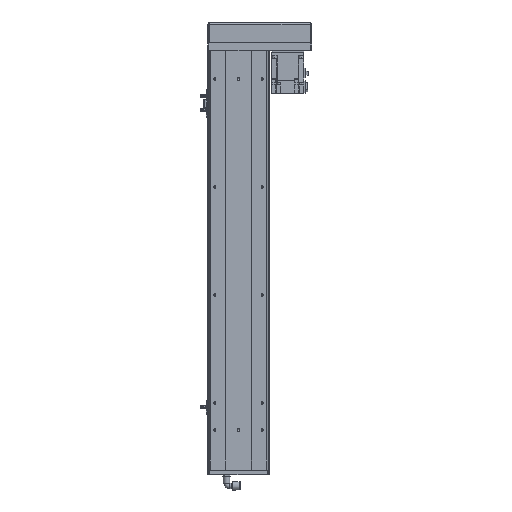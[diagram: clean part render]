
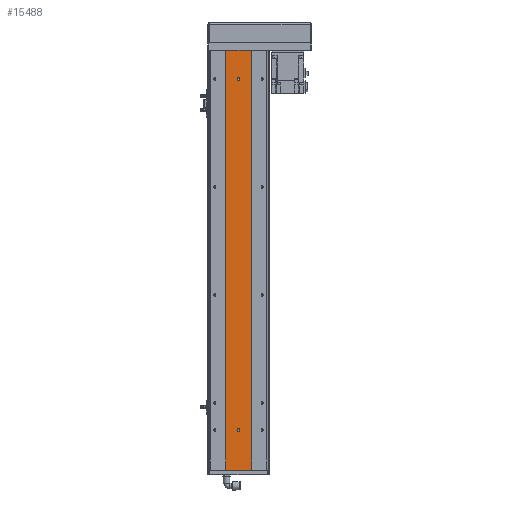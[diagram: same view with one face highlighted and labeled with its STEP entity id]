
A CAD part, top view. The second image highlights one B-rep face of the part: STEP entity #15488.
In plain terms, the highlighted planar face has unit normal (0, 0, 1).
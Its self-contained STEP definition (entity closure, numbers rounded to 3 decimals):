
#695 = LINE ( 'NONE', #18924, #30082 ) ;
#704 = CARTESIAN_POINT ( 'NONE',  ( 0., -54., 35.25 ) ) ;
#1459 = EDGE_CURVE ( 'NONE', #21817, #35104, #12765, .T. ) ;
#2255 = DIRECTION ( 'NONE',  ( 1., 0., 0. ) ) ;
#2807 = VECTOR ( 'NONE', #17575, 1000. ) ;
#3235 = CARTESIAN_POINT ( 'NONE',  ( -24., -777., 35.25 ) ) ;
#3475 = CARTESIAN_POINT ( 'NONE',  ( 2.5, -54., 35.25 ) ) ;
#3689 = LINE ( 'NONE', #3235, #2807 ) ;
#3955 = VERTEX_POINT ( 'NONE', #15570 ) ;
#4054 = ORIENTED_EDGE ( 'NONE', *, *, #4739, .F. ) ;
#4203 = ORIENTED_EDGE ( 'NONE', *, *, #1459, .F. ) ;
#4317 = CARTESIAN_POINT ( 'NONE',  ( 24., -777., 35.25 ) ) ;
#4739 = EDGE_CURVE ( 'NONE', #23258, #24466, #4922, .T. ) ;
#4922 = CIRCLE ( 'NONE', #17670, 2.5 ) ;
#5953 = DIRECTION ( 'NONE',  ( 0., 0., 1. ) ) ;
#6267 = CARTESIAN_POINT ( 'NONE',  ( 2.5, -52., 35.25 ) ) ;
#6442 = DIRECTION ( 'NONE',  ( 1., 0., 0. ) ) ;
#6865 = LINE ( 'NONE', #15052, #19840 ) ;
#7021 = ORIENTED_EDGE ( 'NONE', *, *, #20981, .F. ) ;
#7046 = EDGE_CURVE ( 'NONE', #24761, #13845, #35540, .T. ) ;
#7214 = PLANE ( 'NONE',  #11428 ) ;
#7541 = ORIENTED_EDGE ( 'NONE', *, *, #24513, .T. ) ;
#9403 = VERTEX_POINT ( 'NONE', #23060 ) ;
#11428 = AXIS2_PLACEMENT_3D ( 'NONE', #27106, #15819, #31964 ) ;
#12521 = AXIS2_PLACEMENT_3D ( 'NONE', #36601, #22217, #2255 ) ;
#12584 = CARTESIAN_POINT ( 'NONE',  ( 0., -52., 35.25 ) ) ;
#12642 = CIRCLE ( 'NONE', #34897, 2.5 ) ;
#12682 = VECTOR ( 'NONE', #24309, 1000. ) ;
#12765 = LINE ( 'NONE', #33405, #27451 ) ;
#13126 = CARTESIAN_POINT ( 'NONE',  ( -2.5, -703., 35.25 ) ) ;
#13845 = VERTEX_POINT ( 'NONE', #6267 ) ;
#15052 = CARTESIAN_POINT ( 'NONE',  ( -2.5, -54., 35.25 ) ) ;
#15078 = VECTOR ( 'NONE', #21374, 1000. ) ;
#15488 = ADVANCED_FACE ( 'NONE', ( #17398, #31624, #24089 ), #7214, .T. ) ;
#15570 = CARTESIAN_POINT ( 'NONE',  ( -24., -777., 35.25 ) ) ;
#15819 = DIRECTION ( 'NONE',  ( 0., 0., 1. ) ) ;
#17398 = FACE_BOUND ( 'NONE', #32083, .T. ) ;
#17575 = DIRECTION ( 'NONE',  ( 0., 1., 0. ) ) ;
#17670 = AXIS2_PLACEMENT_3D ( 'NONE', #25334, #36381, #22257 ) ;
#18192 = DIRECTION ( 'NONE',  ( 1., 0., 0. ) ) ;
#18590 = CARTESIAN_POINT ( 'NONE',  ( -24., -777., 35.25 ) ) ;
#18924 = CARTESIAN_POINT ( 'NONE',  ( 24., -777., 35.25 ) ) ;
#18953 = LINE ( 'NONE', #18590, #12682 ) ;
#19191 = CARTESIAN_POINT ( 'NONE',  ( -24., 0., 35.25 ) ) ;
#19840 = VECTOR ( 'NONE', #23282, 1000. ) ;
#20835 = CARTESIAN_POINT ( 'NONE',  ( 24., 0., 35.25 ) ) ;
#20981 = EDGE_CURVE ( 'NONE', #9403, #25050, #6865, .T. ) ;
#21162 = CIRCLE ( 'NONE', #35928, 2.5 ) ;
#21374 = DIRECTION ( 'NONE',  ( 0., 1., 0. ) ) ;
#21817 = VERTEX_POINT ( 'NONE', #19191 ) ;
#22217 = DIRECTION ( 'NONE',  ( 0., 0., 1. ) ) ;
#22257 = DIRECTION ( 'NONE',  ( 1., 0., 0. ) ) ;
#22659 = DIRECTION ( 'NONE',  ( 0., 1., 0. ) ) ;
#22727 = ORIENTED_EDGE ( 'NONE', *, *, #35814, .F. ) ;
#22922 = EDGE_LOOP ( 'NONE', ( #22727, #4054 ) ) ;
#23060 = CARTESIAN_POINT ( 'NONE',  ( -2.5, -52., 35.25 ) ) ;
#23195 = ORIENTED_EDGE ( 'NONE', *, *, #7046, .F. ) ;
#23258 = VERTEX_POINT ( 'NONE', #13126 ) ;
#23282 = DIRECTION ( 'NONE',  ( 0., -1., 0. ) ) ;
#24062 = EDGE_CURVE ( 'NONE', #25918, #35104, #695, .T. ) ;
#24089 = FACE_OUTER_BOUND ( 'NONE', #24904, .T. ) ;
#24309 = DIRECTION ( 'NONE',  ( 1., 0., 0. ) ) ;
#24466 = VERTEX_POINT ( 'NONE', #30254 ) ;
#24513 = EDGE_CURVE ( 'NONE', #3955, #25918, #18953, .T. ) ;
#24761 = VERTEX_POINT ( 'NONE', #3475 ) ;
#24887 = EDGE_CURVE ( 'NONE', #13845, #9403, #12642, .T. ) ;
#24904 = EDGE_LOOP ( 'NONE', ( #4203, #28123, #7541, #33509 ) ) ;
#25050 = VERTEX_POINT ( 'NONE', #33359 ) ;
#25334 = CARTESIAN_POINT ( 'NONE',  ( 0., -703., 35.25 ) ) ;
#25818 = DIRECTION ( 'NONE',  ( 1., 0., 0. ) ) ;
#25918 = VERTEX_POINT ( 'NONE', #4317 ) ;
#27106 = CARTESIAN_POINT ( 'NONE',  ( -24., -777., 35.25 ) ) ;
#27126 = CIRCLE ( 'NONE', #12521, 2.5 ) ;
#27159 = CARTESIAN_POINT ( 'NONE',  ( 2.5, -54., 35.25 ) ) ;
#27451 = VECTOR ( 'NONE', #25818, 1000. ) ;
#28123 = ORIENTED_EDGE ( 'NONE', *, *, #33483, .F. ) ;
#29443 = EDGE_CURVE ( 'NONE', #25050, #24761, #21162, .T. ) ;
#30082 = VECTOR ( 'NONE', #22659, 1000. ) ;
#30254 = CARTESIAN_POINT ( 'NONE',  ( 2.5, -703., 35.25 ) ) ;
#31624 = FACE_BOUND ( 'NONE', #22922, .T. ) ;
#31964 = DIRECTION ( 'NONE',  ( 1., 0., 0. ) ) ;
#32083 = EDGE_LOOP ( 'NONE', ( #7021, #35844, #23195, #33645 ) ) ;
#32488 = DIRECTION ( 'NONE',  ( 0., 0., 1. ) ) ;
#33359 = CARTESIAN_POINT ( 'NONE',  ( -2.5, -54., 35.25 ) ) ;
#33405 = CARTESIAN_POINT ( 'NONE',  ( -24., 0., 35.25 ) ) ;
#33483 = EDGE_CURVE ( 'NONE', #3955, #21817, #3689, .T. ) ;
#33509 = ORIENTED_EDGE ( 'NONE', *, *, #24062, .T. ) ;
#33645 = ORIENTED_EDGE ( 'NONE', *, *, #29443, .F. ) ;
#34897 = AXIS2_PLACEMENT_3D ( 'NONE', #12584, #32488, #18192 ) ;
#35104 = VERTEX_POINT ( 'NONE', #20835 ) ;
#35540 = LINE ( 'NONE', #27159, #15078 ) ;
#35814 = EDGE_CURVE ( 'NONE', #24466, #23258, #27126, .T. ) ;
#35844 = ORIENTED_EDGE ( 'NONE', *, *, #24887, .F. ) ;
#35928 = AXIS2_PLACEMENT_3D ( 'NONE', #704, #5953, #6442 ) ;
#36381 = DIRECTION ( 'NONE',  ( 0., 0., 1. ) ) ;
#36601 = CARTESIAN_POINT ( 'NONE',  ( 0., -703., 35.25 ) ) ;
